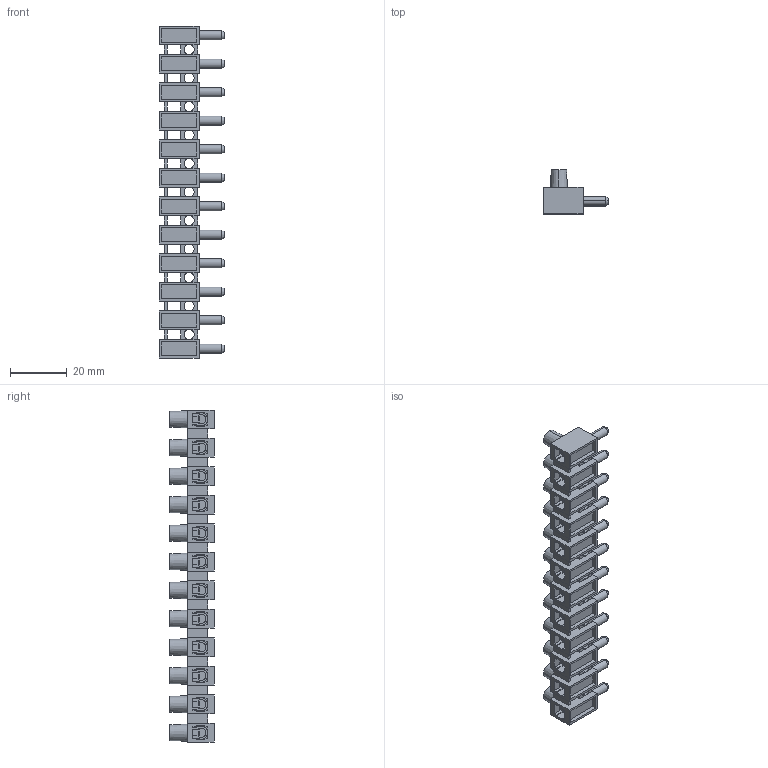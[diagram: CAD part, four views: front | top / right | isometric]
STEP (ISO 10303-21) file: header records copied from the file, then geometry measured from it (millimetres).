
FILE_DESCRIPTION (( 'STEP AP214' ), '1' );
FILE_NAME ('322-STFS-DS-12.STEP', '2008-04-15T01:35:54', ( ' ' ), ( '' ), 'SwSTEP 2.0', 'SolidWorks 2007', '' );
FILE_SCHEMA (( 'AUTOMOTIVE_DESIGN' ));
Length unit declared in the file: millimetre
Products named in the file (1): 322-STFS-DS-12
Bounding box: 23 x 15.5 x 116.5 mm (x, y, z)
Volume: 11176.4 mm3; surface area: 13816.1 mm2
Topology: 1 solids, 1 shells, 1432 faces, 4096 edges, 2692 vertices
Faces by surface type: plane 918, cylinder 346, cone 108, bspline 36, torus 24
Entity records: 48487 total; most frequent: CARTESIAN_POINT 10309, ORIENTED_EDGE 8192, DIRECTION 7762, EDGE_CURVE 4096, VECTOR 2816, LINE 2816, VERTEX_POINT 2692, AXIS2_PLACEMENT_3D 2473
